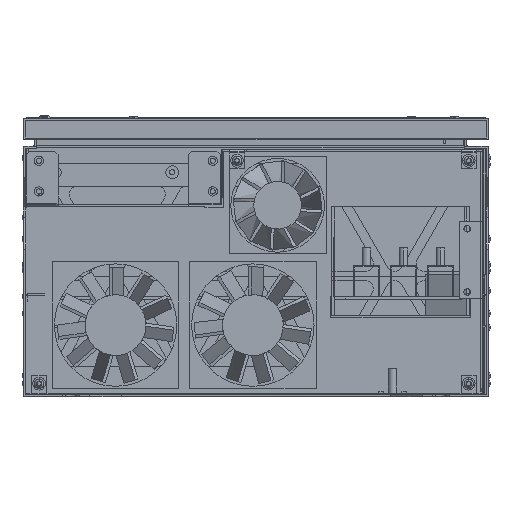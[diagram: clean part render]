
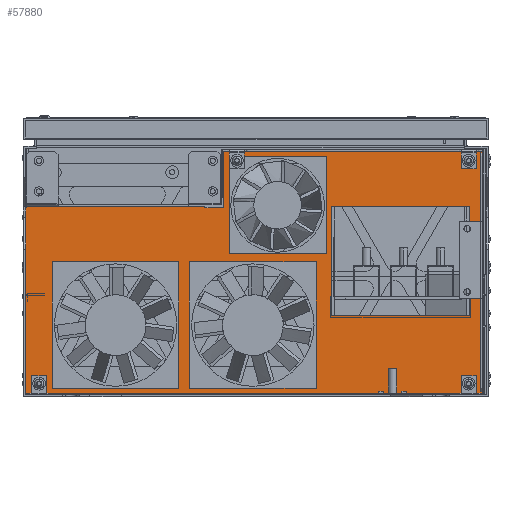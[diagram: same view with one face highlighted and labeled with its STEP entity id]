
A CAD part, front view. The second image highlights one B-rep face of the part: STEP entity #57880.
In plain terms, the highlighted planar face has unit normal (0, -1, 0).
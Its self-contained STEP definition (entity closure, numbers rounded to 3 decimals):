
#49038=DIRECTION('',(0.,0.,1.));
#49039=VECTOR('',#49038,1.5);
#49040=CARTESIAN_POINT('',(434.9,55.,1.5));
#49041=LINE('',#49040,#49039);
#49108=DIRECTION('',(0.,0.,1.));
#49109=VECTOR('',#49108,1.5);
#49110=CARTESIAN_POINT('',(434.9,55.,229.14));
#49111=LINE('',#49110,#49109);
#50611=DIRECTION('',(-1.,0.,0.));
#50612=VECTOR('',#50611,169.08);
#50613=CARTESIAN_POINT('',(172.08,55.,178.6));
#50614=LINE('',#50613,#50612);
#50977=DIRECTION('',(0.,0.,1.));
#50978=VECTOR('',#50977,1.5);
#50979=CARTESIAN_POINT('',(3.,55.,177.1));
#50980=LINE('',#50979,#50978);
#50984=DIRECTION('',(0.,0.,1.));
#50985=VECTOR('',#50984,1.5);
#50986=CARTESIAN_POINT('',(172.08,55.,177.1));
#50987=LINE('',#50986,#50985);
#50991=DIRECTION('',(-1.,0.,0.));
#50992=VECTOR('',#50991,17.5);
#50993=CARTESIAN_POINT('',(189.58,55.,177.1));
#50994=LINE('',#50993,#50992);
#50998=DIRECTION('',(0.,0.,-1.));
#50999=VECTOR('',#50998,53.54);
#51000=CARTESIAN_POINT('',(189.58,55.,230.64));
#51001=LINE('',#51000,#50999);
#51005=DIRECTION('',(1.,0.,0.));
#51006=VECTOR('',#51005,245.32);
#51007=CARTESIAN_POINT('',(189.58,55.,230.64));
#51008=LINE('',#51007,#51006);
#51012=DIRECTION('',(-1.,0.,0.));
#51013=VECTOR('',#51012,1.5);
#51014=CARTESIAN_POINT('',(434.9,55.,229.14));
#51015=LINE('',#51014,#51013);
#51019=DIRECTION('',(0.,0.,1.));
#51020=VECTOR('',#51019,226.14);
#51021=CARTESIAN_POINT('',(433.4,55.,3.));
#51022=LINE('',#51021,#51020);
#51026=DIRECTION('',(1.,0.,0.));
#51027=VECTOR('',#51026,1.5);
#51028=CARTESIAN_POINT('',(0.,55.,3.));
#51029=LINE('',#51028,#51027);
#51033=DIRECTION('',(0.,0.,-1.));
#51034=VECTOR('',#51033,174.1);
#51035=CARTESIAN_POINT('',(1.5,55.,177.1));
#51036=LINE('',#51035,#51034);
#51040=DIRECTION('',(1.,0.,0.));
#51041=VECTOR('',#51040,1.5);
#51042=CARTESIAN_POINT('',(1.5,55.,177.1));
#51043=LINE('',#51042,#51041);
#51047=DIRECTION('',(-1.,0.,0.));
#51048=VECTOR('',#51047,131.);
#51049=CARTESIAN_POINT('',(422.95,55.,178.5));
#51050=LINE('',#51049,#51048);
#51054=DIRECTION('',(0.,0.,-1.));
#51055=VECTOR('',#51054,103.7);
#51056=CARTESIAN_POINT('',(291.95,55.,178.5));
#51057=LINE('',#51056,#51055);
#51061=DIRECTION('',(1.,0.,0.));
#51062=VECTOR('',#51061,131.);
#51063=CARTESIAN_POINT('',(291.95,55.,74.8));
#51064=LINE('',#51063,#51062);
#51068=DIRECTION('',(0.,0.,1.));
#51069=VECTOR('',#51068,103.7);
#51070=CARTESIAN_POINT('',(422.95,55.,74.8));
#51071=LINE('',#51070,#51069);
#51075=DIRECTION('',(0.,0.,1.));
#51076=VECTOR('',#51075,120.);
#51077=CARTESIAN_POINT('',(277.448,55.,5.993));
#51078=LINE('',#51077,#51076);
#51082=DIRECTION('',(-1.,0.,0.));
#51083=VECTOR('',#51082,120.);
#51084=CARTESIAN_POINT('',(277.452,55.,125.993));
#51085=LINE('',#51084,#51083);
#51089=DIRECTION('',(0.,0.,-1.));
#51090=VECTOR('',#51089,120.);
#51091=CARTESIAN_POINT('',(157.452,55.,125.997));
#51092=LINE('',#51091,#51090);
#51096=DIRECTION('',(1.,0.,0.));
#51097=VECTOR('',#51096,120.);
#51098=CARTESIAN_POINT('',(157.448,55.,5.997));
#51099=LINE('',#51098,#51097);
#51103=DIRECTION('',(0.,0.,1.));
#51104=VECTOR('',#51103,120.);
#51105=CARTESIAN_POINT('',(147.448,55.,5.998));
#51106=LINE('',#51105,#51104);
#51110=DIRECTION('',(-1.,0.,0.));
#51111=VECTOR('',#51110,120.);
#51112=CARTESIAN_POINT('',(147.452,55.,125.998));
#51113=LINE('',#51112,#51111);
#51117=DIRECTION('',(0.,0.,-1.));
#51118=VECTOR('',#51117,120.);
#51119=CARTESIAN_POINT('',(27.452,55.,126.002));
#51120=LINE('',#51119,#51118);
#51124=DIRECTION('',(1.,0.,0.));
#51125=VECTOR('',#51124,120.);
#51126=CARTESIAN_POINT('',(27.448,55.,6.002));
#51127=LINE('',#51126,#51125);
#51131=DIRECTION('',(0.,0.,1.));
#51132=VECTOR('',#51131,92.);
#51133=CARTESIAN_POINT('',(286.948,55.,133.493));
#51134=LINE('',#51133,#51132);
#51138=DIRECTION('',(-1.,0.,0.));
#51139=VECTOR('',#51138,92.);
#51140=CARTESIAN_POINT('',(286.948,55.,225.493));
#51141=LINE('',#51140,#51139);
#51145=DIRECTION('',(0.,0.,-1.));
#51146=VECTOR('',#51145,92.);
#51147=CARTESIAN_POINT('',(194.948,55.,225.493));
#51148=LINE('',#51147,#51146);
#51152=DIRECTION('',(1.,0.,0.));
#51153=VECTOR('',#51152,92.);
#51154=CARTESIAN_POINT('',(194.948,55.,133.493));
#51155=LINE('',#51154,#51153);
#51222=DIRECTION('',(-1.,0.,0.));
#51223=VECTOR('',#51222,1.5);
#51224=CARTESIAN_POINT('',(434.9,55.,3.));
#51225=LINE('',#51224,#51223);
#51292=DIRECTION('',(1.,0.,0.));
#51293=VECTOR('',#51292,434.9);
#51294=CARTESIAN_POINT('',(0.,55.,1.5));
#51295=LINE('',#51294,#51293);
#52217=DIRECTION('',(0.,0.,-1.));
#52218=VECTOR('',#52217,1.5);
#52219=CARTESIAN_POINT('',(0.,55.,3.));
#52220=LINE('',#52219,#52218);
#54661=CARTESIAN_POINT('',(189.58,55.,230.64));
#54662=CARTESIAN_POINT('',(189.58,55.,177.1));
#54663=VERTEX_POINT('',#54661);
#54664=VERTEX_POINT('',#54662);
#54665=CARTESIAN_POINT('',(172.08,55.,177.1));
#54666=VERTEX_POINT('',#54665);
#54667=CARTESIAN_POINT('',(172.08,55.,178.6));
#54668=VERTEX_POINT('',#54667);
#54673=CARTESIAN_POINT('',(434.9,55.,229.14));
#54674=VERTEX_POINT('',#54673);
#54675=CARTESIAN_POINT('',(434.9,55.,3.));
#54677=VERTEX_POINT('',#54675);
#54693=CARTESIAN_POINT('',(433.4,55.,229.14));
#54694=VERTEX_POINT('',#54693);
#54695=CARTESIAN_POINT('',(433.4,55.,3.));
#54697=VERTEX_POINT('',#54695);
#54743=CARTESIAN_POINT('',(434.9,55.,1.5));
#54744=VERTEX_POINT('',#54743);
#54751=CARTESIAN_POINT('',(0.,55.,3.));
#54752=CARTESIAN_POINT('',(0.,55.,1.5));
#54753=VERTEX_POINT('',#54751);
#54754=VERTEX_POINT('',#54752);
#54791=CARTESIAN_POINT('',(1.5,55.,3.));
#54792=VERTEX_POINT('',#54791);
#54793=CARTESIAN_POINT('',(434.9,55.,230.64));
#54794=VERTEX_POINT('',#54793);
#54833=CARTESIAN_POINT('',(3.,55.,177.1));
#54834=CARTESIAN_POINT('',(3.,55.,178.6));
#54835=VERTEX_POINT('',#54833);
#54836=VERTEX_POINT('',#54834);
#54837=CARTESIAN_POINT('',(1.5,55.,177.1));
#54838=VERTEX_POINT('',#54837);
#54935=CARTESIAN_POINT('',(422.95,55.,178.5));
#54936=CARTESIAN_POINT('',(291.95,55.,178.5));
#54937=VERTEX_POINT('',#54935);
#54938=VERTEX_POINT('',#54936);
#54939=CARTESIAN_POINT('',(291.95,55.,74.8));
#54940=VERTEX_POINT('',#54939);
#54941=CARTESIAN_POINT('',(422.95,55.,74.8));
#54942=VERTEX_POINT('',#54941);
#55625=CARTESIAN_POINT('',(277.448,55.,5.993));
#55626=CARTESIAN_POINT('',(277.452,55.,125.993));
#55627=VERTEX_POINT('',#55625);
#55628=VERTEX_POINT('',#55626);
#55629=CARTESIAN_POINT('',(157.452,55.,125.997));
#55630=VERTEX_POINT('',#55629);
#55631=CARTESIAN_POINT('',(157.448,55.,5.997));
#55632=VERTEX_POINT('',#55631);
#55669=CARTESIAN_POINT('',(147.448,55.,5.998));
#55670=CARTESIAN_POINT('',(147.452,55.,125.998));
#55671=VERTEX_POINT('',#55669);
#55672=VERTEX_POINT('',#55670);
#55673=CARTESIAN_POINT('',(27.452,55.,126.002));
#55674=VERTEX_POINT('',#55673);
#55675=CARTESIAN_POINT('',(27.448,55.,6.002));
#55676=VERTEX_POINT('',#55675);
#55677=CARTESIAN_POINT('',(286.948,55.,133.493));
#55678=CARTESIAN_POINT('',(286.948,55.,225.493));
#55679=VERTEX_POINT('',#55677);
#55680=VERTEX_POINT('',#55678);
#55681=CARTESIAN_POINT('',(194.948,55.,225.493));
#55682=VERTEX_POINT('',#55681);
#55683=CARTESIAN_POINT('',(194.948,55.,133.493));
#55684=VERTEX_POINT('',#55683);
#57807=CARTESIAN_POINT('',(0.,55.,0.));
#57808=DIRECTION('',(0.,-1.,0.));
#57809=DIRECTION('',(-1.,0.,0.));
#57810=AXIS2_PLACEMENT_3D('',#57807,#57808,#57809);
#57811=PLANE('',#57810);
#57812=ORIENTED_EDGE('',*,*,#57773,.T.);
#57813=ORIENTED_EDGE('',*,*,#57296,.F.);
#57815=ORIENTED_EDGE('',*,*,#57814,.F.);
#57817=ORIENTED_EDGE('',*,*,#57816,.F.);
#57819=ORIENTED_EDGE('',*,*,#57818,.F.);
#57820=ORIENTED_EDGE('',*,*,#56113,.T.);
#57821=ORIENTED_EDGE('',*,*,#55879,.F.);
#57823=ORIENTED_EDGE('',*,*,#57822,.T.);
#57824=ORIENTED_EDGE('',*,*,#55800,.F.);
#57826=ORIENTED_EDGE('',*,*,#57825,.F.);
#57827=ORIENTED_EDGE('',*,*,#55862,.F.);
#57829=ORIENTED_EDGE('',*,*,#57828,.F.);
#57831=ORIENTED_EDGE('',*,*,#57830,.F.);
#57833=ORIENTED_EDGE('',*,*,#57832,.T.);
#57835=ORIENTED_EDGE('',*,*,#57834,.F.);
#57837=ORIENTED_EDGE('',*,*,#57836,.T.);
#57838=EDGE_LOOP('',(#57812,#57813,#57815,#57817,#57819,#57820,#57821,#57823,
#57824,#57826,#57827,#57829,#57831,#57833,#57835,#57837));
#57839=FACE_OUTER_BOUND('',#57838,.F.);
#57841=ORIENTED_EDGE('',*,*,#57840,.T.);
#57843=ORIENTED_EDGE('',*,*,#57842,.T.);
#57845=ORIENTED_EDGE('',*,*,#57844,.T.);
#57847=ORIENTED_EDGE('',*,*,#57846,.T.);
#57848=EDGE_LOOP('',(#57841,#57843,#57845,#57847));
#57849=FACE_BOUND('',#57848,.F.);
#57851=ORIENTED_EDGE('',*,*,#57850,.T.);
#57853=ORIENTED_EDGE('',*,*,#57852,.T.);
#57855=ORIENTED_EDGE('',*,*,#57854,.T.);
#57857=ORIENTED_EDGE('',*,*,#57856,.T.);
#57858=EDGE_LOOP('',(#57851,#57853,#57855,#57857));
#57859=FACE_BOUND('',#57858,.F.);
#57861=ORIENTED_EDGE('',*,*,#57860,.T.);
#57863=ORIENTED_EDGE('',*,*,#57862,.T.);
#57865=ORIENTED_EDGE('',*,*,#57864,.T.);
#57867=ORIENTED_EDGE('',*,*,#57866,.T.);
#57868=EDGE_LOOP('',(#57861,#57863,#57865,#57867));
#57869=FACE_BOUND('',#57868,.F.);
#57871=ORIENTED_EDGE('',*,*,#57870,.T.);
#57873=ORIENTED_EDGE('',*,*,#57872,.T.);
#57875=ORIENTED_EDGE('',*,*,#57874,.T.);
#57877=ORIENTED_EDGE('',*,*,#57876,.T.);
#57878=EDGE_LOOP('',(#57871,#57873,#57875,#57877));
#57879=FACE_BOUND('',#57878,.F.);
#55800=EDGE_CURVE('',#54697,#54694,#51022,.T.);
#55862=EDGE_CURVE('',#54744,#54677,#49041,.T.);
#55879=EDGE_CURVE('',#54674,#54794,#49111,.T.);
#56113=EDGE_CURVE('',#54663,#54794,#51008,.T.);
#57296=EDGE_CURVE('',#54668,#54836,#50614,.T.);
#57773=EDGE_CURVE('',#54835,#54836,#50980,.T.);
#57814=EDGE_CURVE('',#54666,#54668,#50987,.T.);
#57816=EDGE_CURVE('',#54664,#54666,#50994,.T.);
#57818=EDGE_CURVE('',#54663,#54664,#51001,.T.);
#57822=EDGE_CURVE('',#54674,#54694,#51015,.T.);
#57825=EDGE_CURVE('',#54677,#54697,#51225,.T.);
#57828=EDGE_CURVE('',#54754,#54744,#51295,.T.);
#57830=EDGE_CURVE('',#54753,#54754,#52220,.T.);
#57832=EDGE_CURVE('',#54753,#54792,#51029,.T.);
#57834=EDGE_CURVE('',#54838,#54792,#51036,.T.);
#57836=EDGE_CURVE('',#54838,#54835,#51043,.T.);
#57840=EDGE_CURVE('',#54937,#54938,#51050,.T.);
#57842=EDGE_CURVE('',#54938,#54940,#51057,.T.);
#57844=EDGE_CURVE('',#54940,#54942,#51064,.T.);
#57846=EDGE_CURVE('',#54942,#54937,#51071,.T.);
#57850=EDGE_CURVE('',#55627,#55628,#51078,.T.);
#57852=EDGE_CURVE('',#55628,#55630,#51085,.T.);
#57854=EDGE_CURVE('',#55630,#55632,#51092,.T.);
#57856=EDGE_CURVE('',#55632,#55627,#51099,.T.);
#57860=EDGE_CURVE('',#55671,#55672,#51106,.T.);
#57862=EDGE_CURVE('',#55672,#55674,#51113,.T.);
#57864=EDGE_CURVE('',#55674,#55676,#51120,.T.);
#57866=EDGE_CURVE('',#55676,#55671,#51127,.T.);
#57870=EDGE_CURVE('',#55679,#55680,#51134,.T.);
#57872=EDGE_CURVE('',#55680,#55682,#51141,.T.);
#57874=EDGE_CURVE('',#55682,#55684,#51148,.T.);
#57876=EDGE_CURVE('',#55684,#55679,#51155,.T.);
#57880=ADVANCED_FACE('',(#57839,#57849,#57859,#57869,#57879),#57811,.T.);
